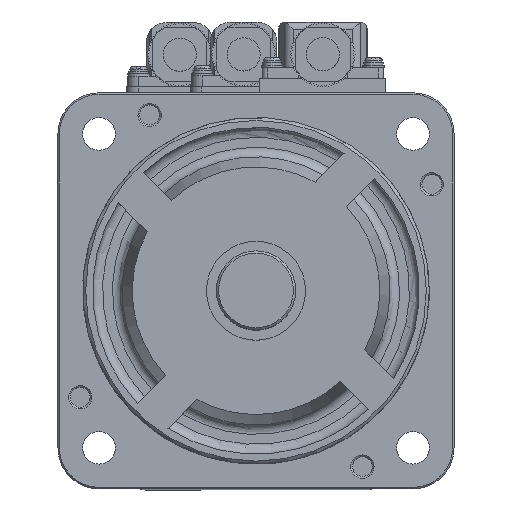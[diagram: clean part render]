
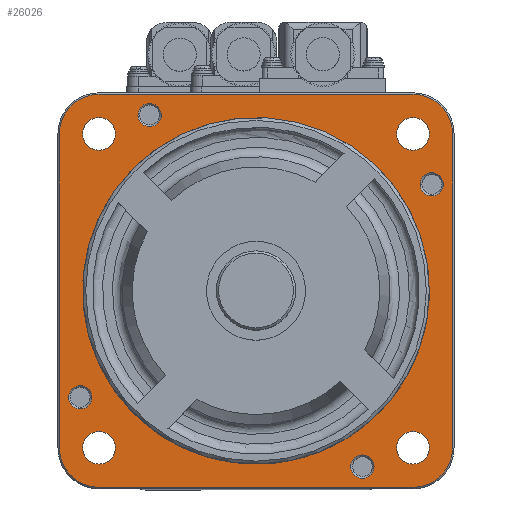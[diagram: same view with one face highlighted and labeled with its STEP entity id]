
A CAD part, top view. The second image highlights one B-rep face of the part: STEP entity #26026.
In plain terms, the highlighted planar face has unit normal (0, 0, 1).
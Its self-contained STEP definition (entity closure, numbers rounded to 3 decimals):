
#25721=CARTESIAN_POINT('',(-39.7,-31.7,0.0));
#25722=VERTEX_POINT('',#25721);
#25730=CARTESIAN_POINT('',(-31.7,-39.7,0.0));
#25731=VERTEX_POINT('',#25730);
#25738=CARTESIAN_POINT('',(-31.7,-31.7,0.0));
#25739=DIRECTION('',(0.0,0.0,-1.0));
#25740=DIRECTION('',(-1.0,0.0,0.0));
#25741=AXIS2_PLACEMENT_3D('',#25738,#25739,#25740);
#25742=CIRCLE('',#25741,8.);
#25743=EDGE_CURVE('',#25731,#25722,#25742,.T.);
#25753=CARTESIAN_POINT('',(31.7,-39.7,0.0));
#25754=VERTEX_POINT('',#25753);
#25761=CARTESIAN_POINT('',(31.7,-39.7,0.0));
#25762=DIRECTION('',(-1.0,0.0,0.0));
#25763=VECTOR('',#25762,63.4);
#25764=LINE('',#25761,#25763);
#25765=EDGE_CURVE('',#25754,#25731,#25764,.T.);
#25777=CARTESIAN_POINT('',(39.7,-31.7,0.0));
#25778=VERTEX_POINT('',#25777);
#25785=CARTESIAN_POINT('',(31.7,-31.7,0.0));
#25786=DIRECTION('',(0.0,0.0,-1.0));
#25787=DIRECTION('',(0.0,-1.0,0.0));
#25788=AXIS2_PLACEMENT_3D('',#25785,#25786,#25787);
#25789=CIRCLE('',#25788,8.);
#25790=EDGE_CURVE('',#25778,#25754,#25789,.T.);
#25802=CARTESIAN_POINT('',(39.7,31.7,0.0));
#25803=VERTEX_POINT('',#25802);
#25810=CARTESIAN_POINT('',(39.7,31.7,0.0));
#25811=DIRECTION('',(0.0,-1.0,0.0));
#25812=VECTOR('',#25811,63.4);
#25813=LINE('',#25810,#25812);
#25814=EDGE_CURVE('',#25803,#25778,#25813,.T.);
#25826=CARTESIAN_POINT('',(31.7,39.7,0.0));
#25827=VERTEX_POINT('',#25826);
#25834=CARTESIAN_POINT('',(31.7,31.7,0.0));
#25835=DIRECTION('',(0.0,0.0,-1.0));
#25836=DIRECTION('',(1.0,0.0,0.0));
#25837=AXIS2_PLACEMENT_3D('',#25834,#25835,#25836);
#25838=CIRCLE('',#25837,8.);
#25839=EDGE_CURVE('',#25827,#25803,#25838,.T.);
#25851=CARTESIAN_POINT('',(-31.7,39.7,0.0));
#25852=VERTEX_POINT('',#25851);
#25859=CARTESIAN_POINT('',(-31.7,39.7,0.0));
#25860=DIRECTION('',(1.0,0.0,0.0));
#25861=VECTOR('',#25860,63.4);
#25862=LINE('',#25859,#25861);
#25863=EDGE_CURVE('',#25852,#25827,#25862,.T.);
#25875=CARTESIAN_POINT('',(-39.7,31.7,0.0));
#25876=VERTEX_POINT('',#25875);
#25883=CARTESIAN_POINT('',(-31.7,31.7,0.0));
#25884=DIRECTION('',(0.0,0.0,-1.0));
#25885=DIRECTION('',(0.0,1.0,0.0));
#25886=AXIS2_PLACEMENT_3D('',#25883,#25884,#25885);
#25887=CIRCLE('',#25886,8.);
#25888=EDGE_CURVE('',#25876,#25852,#25887,.T.);
#25901=CARTESIAN_POINT('',(-39.7,-31.7,0.0));
#25902=DIRECTION('',(0.0,1.0,0.0));
#25903=VECTOR('',#25902,63.4);
#25904=LINE('',#25901,#25903);
#25905=EDGE_CURVE('',#25722,#25876,#25904,.T.);
#25912=CARTESIAN_POINT('',(0.,0.,0.0));
#25913=DIRECTION('',(0.0,0.0,1.0));
#25914=DIRECTION('',(1.0,0.0,0.0));
#25915=AXIS2_PLACEMENT_3D('',#25912,#25913,#25914);
#25916=PLANE('',#25915);
#25917=ORIENTED_EDGE('',*,*,#25743,.F.);
#25918=ORIENTED_EDGE('',*,*,#25765,.F.);
#25919=ORIENTED_EDGE('',*,*,#25790,.F.);
#25920=ORIENTED_EDGE('',*,*,#25814,.F.);
#25921=ORIENTED_EDGE('',*,*,#25839,.F.);
#25922=ORIENTED_EDGE('',*,*,#25863,.F.);
#25923=ORIENTED_EDGE('',*,*,#25888,.F.);
#25924=ORIENTED_EDGE('',*,*,#25905,.F.);
#25925=EDGE_LOOP('',(#25917,#25918,#25919,#25920,#25921,#25922,#25923,#25924));
#25926=FACE_OUTER_BOUND('',#25925,.T.);
#25927=CARTESIAN_POINT('',(35.5,19.15,0.0));
#25928=VERTEX_POINT('',#25927);
#25929=CARTESIAN_POINT('',(35.5,21.5,0.0));
#25930=DIRECTION('',(0.0,0.0,1.0));
#25931=DIRECTION('',(0.0,1.0,0.0));
#25932=AXIS2_PLACEMENT_3D('',#25929,#25930,#25931);
#25933=CIRCLE('',#25932,2.35);
#25934=EDGE_CURVE('',#25928,#25928,#25933,.T.);
#25935=ORIENTED_EDGE('',*,*,#25934,.F.);
#25936=EDGE_LOOP('',(#25935));
#25937=FACE_BOUND('',#25936,.T.);
#25938=CARTESIAN_POINT('',(-35.5,-19.15,0.0));
#25939=VERTEX_POINT('',#25938);
#25940=CARTESIAN_POINT('',(-35.5,-21.5,0.0));
#25941=DIRECTION('',(0.0,0.0,1.0));
#25942=DIRECTION('',(0.0,-1.0,0.0));
#25943=AXIS2_PLACEMENT_3D('',#25940,#25941,#25942);
#25944=CIRCLE('',#25943,2.35);
#25945=EDGE_CURVE('',#25939,#25939,#25944,.T.);
#25946=ORIENTED_EDGE('',*,*,#25945,.F.);
#25947=EDGE_LOOP('',(#25946));
#25948=FACE_BOUND('',#25947,.T.);
#25949=CARTESIAN_POINT('',(19.225,29.247,0.0));
#25950=VERTEX_POINT('',#25949);
#25951=CARTESIAN_POINT('',(0.0,0.0,0.0));
#25952=DIRECTION('',(0.0,0.0,-1.0));
#25953=DIRECTION('',(-1.0,0.0,0.0));
#25954=AXIS2_PLACEMENT_3D('',#25951,#25952,#25953);
#25955=CIRCLE('',#25954,35.0);
#25956=EDGE_CURVE('',#25950,#25950,#25955,.T.);
#25957=ORIENTED_EDGE('',*,*,#25956,.T.);
#25958=EDGE_LOOP('',(#25957));
#25959=FACE_BOUND('',#25958,.T.);
#25960=CARTESIAN_POINT('',(-28.4,-31.7,0.0));
#25961=VERTEX_POINT('',#25960);
#25962=CARTESIAN_POINT('',(-31.7,-31.7,0.0));
#25963=DIRECTION('',(0.0,0.0,-1.0));
#25964=DIRECTION('',(-1.0,0.0,0.0));
#25965=AXIS2_PLACEMENT_3D('',#25962,#25963,#25964);
#25966=CIRCLE('',#25965,3.3);
#25967=EDGE_CURVE('',#25961,#25961,#25966,.T.);
#25968=ORIENTED_EDGE('',*,*,#25967,.T.);
#25969=EDGE_LOOP('',(#25968));
#25970=FACE_BOUND('',#25969,.T.);
#25971=CARTESIAN_POINT('',(-31.7,28.4,0.0));
#25972=VERTEX_POINT('',#25971);
#25973=CARTESIAN_POINT('',(-31.7,31.7,0.0));
#25974=DIRECTION('',(0.0,0.0,-1.0));
#25975=DIRECTION('',(0.0,1.0,0.0));
#25976=AXIS2_PLACEMENT_3D('',#25973,#25974,#25975);
#25977=CIRCLE('',#25976,3.3);
#25978=EDGE_CURVE('',#25972,#25972,#25977,.T.);
#25979=ORIENTED_EDGE('',*,*,#25978,.T.);
#25980=EDGE_LOOP('',(#25979));
#25981=FACE_BOUND('',#25980,.T.);
#25982=CARTESIAN_POINT('',(31.7,-28.4,0.0));
#25983=VERTEX_POINT('',#25982);
#25984=CARTESIAN_POINT('',(31.7,-31.7,0.0));
#25985=DIRECTION('',(0.0,0.0,-1.0));
#25986=DIRECTION('',(0.0,-1.0,0.0));
#25987=AXIS2_PLACEMENT_3D('',#25984,#25985,#25986);
#25988=CIRCLE('',#25987,3.3);
#25989=EDGE_CURVE('',#25983,#25983,#25988,.T.);
#25990=ORIENTED_EDGE('',*,*,#25989,.T.);
#25991=EDGE_LOOP('',(#25990));
#25992=FACE_BOUND('',#25991,.T.);
#25993=CARTESIAN_POINT('',(28.4,31.7,0.0));
#25994=VERTEX_POINT('',#25993);
#25995=CARTESIAN_POINT('',(31.7,31.7,0.0));
#25996=DIRECTION('',(0.0,0.0,-1.0));
#25997=DIRECTION('',(1.0,0.0,0.0));
#25998=AXIS2_PLACEMENT_3D('',#25995,#25996,#25997);
#25999=CIRCLE('',#25998,3.3);
#26000=EDGE_CURVE('',#25994,#25994,#25999,.T.);
#26001=ORIENTED_EDGE('',*,*,#26000,.T.);
#26002=EDGE_LOOP('',(#26001));
#26003=FACE_BOUND('',#26002,.T.);
#26004=CARTESIAN_POINT('',(-19.15,35.5,0.0));
#26005=VERTEX_POINT('',#26004);
#26006=CARTESIAN_POINT('',(-21.5,35.5,0.0));
#26007=DIRECTION('',(0.0,0.0,1.0));
#26008=DIRECTION('',(-1.0,0.0,0.0));
#26009=AXIS2_PLACEMENT_3D('',#26006,#26007,#26008);
#26010=CIRCLE('',#26009,2.35);
#26011=EDGE_CURVE('',#26005,#26005,#26010,.T.);
#26012=ORIENTED_EDGE('',*,*,#26011,.F.);
#26013=EDGE_LOOP('',(#26012));
#26014=FACE_BOUND('',#26013,.T.);
#26015=CARTESIAN_POINT('',(19.15,-35.5,0.0));
#26016=VERTEX_POINT('',#26015);
#26017=CARTESIAN_POINT('',(21.5,-35.5,0.0));
#26018=DIRECTION('',(0.0,0.0,1.0));
#26019=DIRECTION('',(1.0,0.0,0.0));
#26020=AXIS2_PLACEMENT_3D('',#26017,#26018,#26019);
#26021=CIRCLE('',#26020,2.35);
#26022=EDGE_CURVE('',#26016,#26016,#26021,.T.);
#26023=ORIENTED_EDGE('',*,*,#26022,.F.);
#26024=EDGE_LOOP('',(#26023));
#26025=FACE_BOUND('',#26024,.T.);
#26026=ADVANCED_FACE('',(#25926,#25937,#25948,#25959,#25970,#25981,#25992,#26003,#26014,#26025),#25916,.T.);
